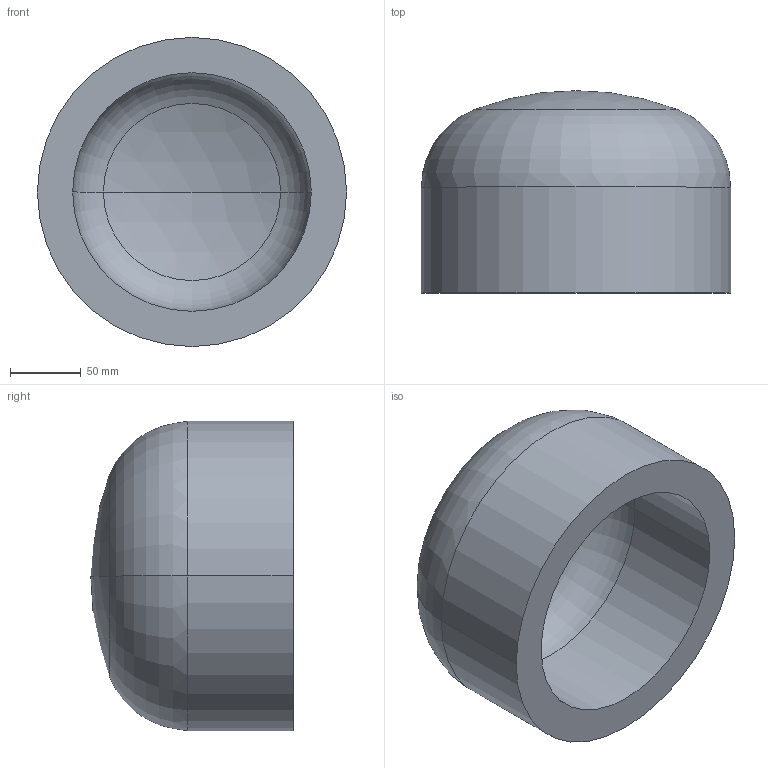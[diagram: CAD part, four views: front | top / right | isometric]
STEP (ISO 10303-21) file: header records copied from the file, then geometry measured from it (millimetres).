
FILE_DESCRIPTION (( 'STEP AP203' ), '1' );
FILE_NAME ('DIN 28013 Korbbogenform_-_Boden DIN 28013 - 219,1 x 75 - I - s=25.step', '2016-07-01T07:42:46', ( '' ), ( '' ), 'SwSTEP 2.0', 'SolidWorks 2013', '' );
FILE_SCHEMA (( 'CONFIG_CONTROL_DESIGN' ));
Length unit declared in the file: millimetre
Products named in the file (1): DIN 28013 Korbbogenform_-_Boden DIN 28013 - 219,1 x 75 - I - s=25
Bounding box: 219.1 x 143.37 x 219.1 mm (x, y, z)
Volume: 2280281.3 mm3; surface area: 198976.1 mm2
Topology: 1 solids, 1 shells, 13 faces, 24 edges, 14 vertices
Faces by surface type: torus 4, cylinder 4, sphere 4, plane 1
Entity records: 407 total; most frequent: DIRECTION 72, CARTESIAN_POINT 52, ORIENTED_EDGE 48, AXIS2_PLACEMENT_3D 34, EDGE_CURVE 24, CIRCLE 20, EDGE_LOOP 14, VERTEX_POINT 14
